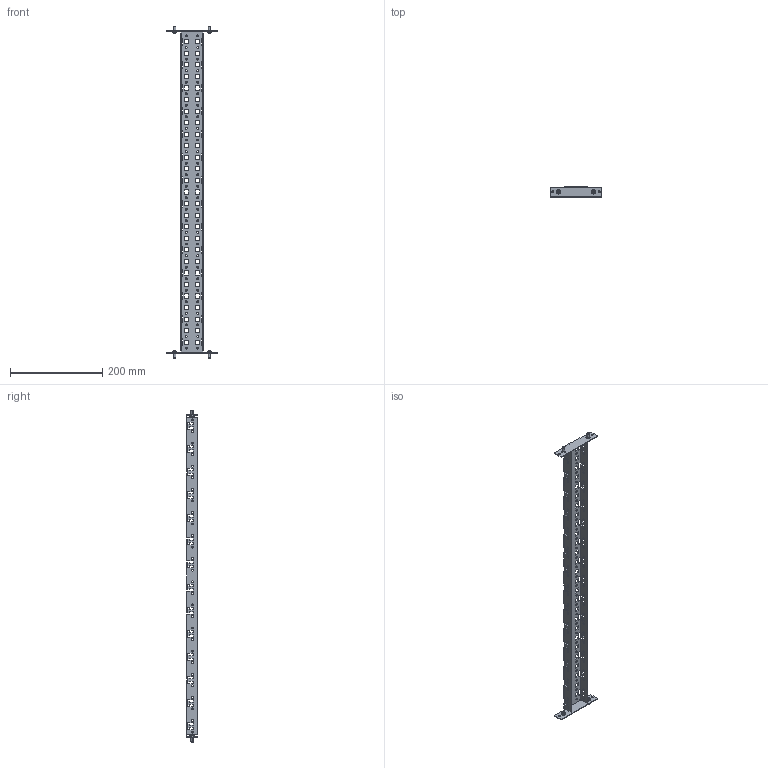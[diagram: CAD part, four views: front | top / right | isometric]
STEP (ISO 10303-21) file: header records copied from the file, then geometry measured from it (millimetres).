
FILE_DESCRIPTION(('Open CASCADE Model'),'2;1');
FILE_NAME('Open CASCADE Shape Model','2025-02-28T17:14:10',('Author'),( 'Open CASCADE'),'Open CASCADE STEP processor 7.8','Open CASCADE 7.8' ,'Unknown');
FILE_SCHEMA(('AUTOMOTIVE_DESIGN { 1 0 10303 214 1 1 1 1 }'));
Length unit declared in the file: millimetre
Products named in the file (3): Compound1; Solid1; Solid2
Assembly tree (5 placements, depth 2):
  Compound1
    Solid1
    Solid2  x4
Bounding box: 111 x 22.5 x 718 mm (x, y, z)
Volume: 86647.6 mm3; surface area: 127208.7 mm2
Topology: 5 solids, 5 shells, 1038 faces, 3188 edges, 2100 vertices
Faces by surface type: plane 734, cylinder 256, cone 16, torus 16, bspline 8, sphere 8
Entity records: 34490 total; most frequent: CARTESIAN_POINT 6239, ORIENTED_EDGE 6072, DIRECTION 5474, EDGE_CURVE 3036, LINE 2518, VECTOR 2518, VERTEX_POINT 2019, AXIS2_PLACEMENT_3D 1478
